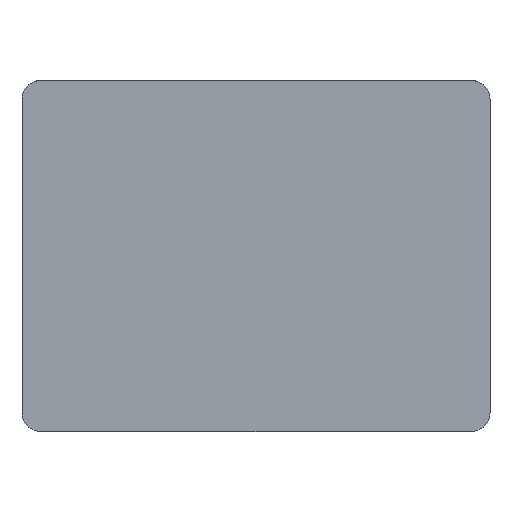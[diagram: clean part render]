
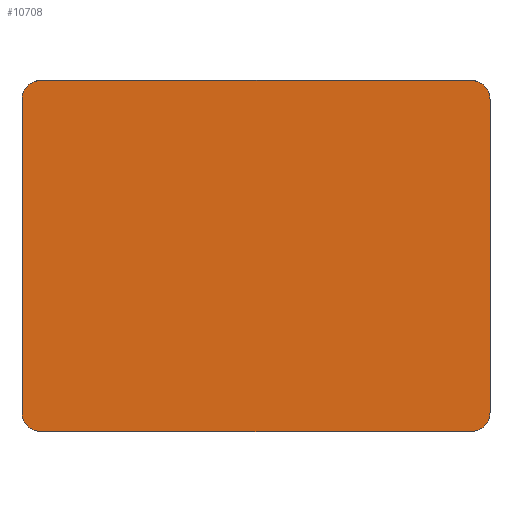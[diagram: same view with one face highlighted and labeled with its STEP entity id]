
A CAD part, left-side view. The second image highlights one B-rep face of the part: STEP entity #10708.
In plain terms, the highlighted planar face has unit normal (-1, 0, 0).
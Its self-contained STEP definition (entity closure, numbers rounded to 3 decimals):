
#1420=PLANE('',#10996);
#1982=FACE_OUTER_BOUND('',#2620,.T.);
#2620=EDGE_LOOP('',(#9905,#9906,#9907,#9908,#9909,#9910,#9911,#9912));
#3383=LINE('',#21786,#4142);
#3388=LINE('',#21815,#4147);
#3397=LINE('',#21858,#4156);
#3400=LINE('',#21867,#4159);
#4142=VECTOR('',#12132,10.);
#4147=VECTOR('',#12173,10.);
#4156=VECTOR('',#12224,10.);
#4159=VECTOR('',#12233,10.);
#4225=CIRCLE('',#10994,8.);
#4226=CIRCLE('',#10997,8.);
#4227=CIRCLE('',#10998,8.);
#4228=CIRCLE('',#10999,8.);
#5252=VERTEX_POINT('',#21780);
#5254=VERTEX_POINT('',#21784);
#5258=VERTEX_POINT('',#21809);
#5260=VERTEX_POINT('',#21813);
#5272=VERTEX_POINT('',#21853);
#5273=VERTEX_POINT('',#21857);
#5275=VERTEX_POINT('',#21864);
#5276=VERTEX_POINT('',#21866);
#6804=EDGE_CURVE('',#5254,#5252,#3383,.T.);
#6811=EDGE_CURVE('',#5260,#5258,#3388,.T.);
#6830=EDGE_CURVE('',#5258,#5272,#4225,.T.);
#6832=EDGE_CURVE('',#5272,#5273,#3397,.T.);
#6835=EDGE_CURVE('',#5252,#5260,#4226,.T.);
#6836=EDGE_CURVE('',#5275,#5254,#4227,.T.);
#6837=EDGE_CURVE('',#5276,#5275,#3400,.T.);
#6838=EDGE_CURVE('',#5273,#5276,#4228,.T.);
#9905=ORIENTED_EDGE('',*,*,#6830,.F.);
#9906=ORIENTED_EDGE('',*,*,#6811,.F.);
#9907=ORIENTED_EDGE('',*,*,#6835,.F.);
#9908=ORIENTED_EDGE('',*,*,#6804,.F.);
#9909=ORIENTED_EDGE('',*,*,#6836,.F.);
#9910=ORIENTED_EDGE('',*,*,#6837,.F.);
#9911=ORIENTED_EDGE('',*,*,#6838,.F.);
#9912=ORIENTED_EDGE('',*,*,#6832,.F.);
#10708=ADVANCED_FACE('',(#1982),#1420,.F.);
#10994=AXIS2_PLACEMENT_3D('',#21854,#12219,#12220);
#10996=AXIS2_PLACEMENT_3D('',#21862,#12227,#12228);
#10997=AXIS2_PLACEMENT_3D('',#21863,#12229,#12230);
#10998=AXIS2_PLACEMENT_3D('',#21865,#12231,#12232);
#10999=AXIS2_PLACEMENT_3D('',#21868,#12234,#12235);
#12132=DIRECTION('',(0.,0.,-1.));
#12173=DIRECTION('',(0.,1.,0.));
#12219=DIRECTION('center_axis',(1.,0.,0.));
#12220=DIRECTION('ref_axis',(0.,0.707,-0.707));
#12224=DIRECTION('',(0.,0.,1.));
#12227=DIRECTION('center_axis',(1.,0.,0.));
#12228=DIRECTION('ref_axis',(0.,1.,0.));
#12229=DIRECTION('center_axis',(1.,0.,0.));
#12230=DIRECTION('ref_axis',(0.,-0.707,-0.707));
#12231=DIRECTION('center_axis',(1.,0.,0.));
#12232=DIRECTION('ref_axis',(0.,-0.707,0.707));
#12233=DIRECTION('',(0.,-1.,0.));
#12234=DIRECTION('center_axis',(1.,0.,0.));
#12235=DIRECTION('ref_axis',(0.,0.707,0.707));
#21780=CARTESIAN_POINT('',(0.,0.,8.));
#21784=CARTESIAN_POINT('',(0.,0.,142.));
#21786=CARTESIAN_POINT('',(0.,0.,150.));
#21809=CARTESIAN_POINT('',(0.,192.,0.));
#21813=CARTESIAN_POINT('',(0.,8.,0.));
#21815=CARTESIAN_POINT('',(0.,0.,0.));
#21853=CARTESIAN_POINT('',(0.,200.,8.));
#21854=CARTESIAN_POINT('Origin',(0.,192.,8.));
#21857=CARTESIAN_POINT('',(0.,200.,142.));
#21858=CARTESIAN_POINT('',(0.,200.,0.));
#21862=CARTESIAN_POINT('Origin',(0.,100.,75.));
#21863=CARTESIAN_POINT('Origin',(0.,8.,8.));
#21864=CARTESIAN_POINT('',(0.,8.,150.));
#21865=CARTESIAN_POINT('Origin',(0.,8.,142.));
#21866=CARTESIAN_POINT('',(0.,192.,150.));
#21867=CARTESIAN_POINT('',(0.,200.,150.));
#21868=CARTESIAN_POINT('Origin',(0.,192.,142.));
